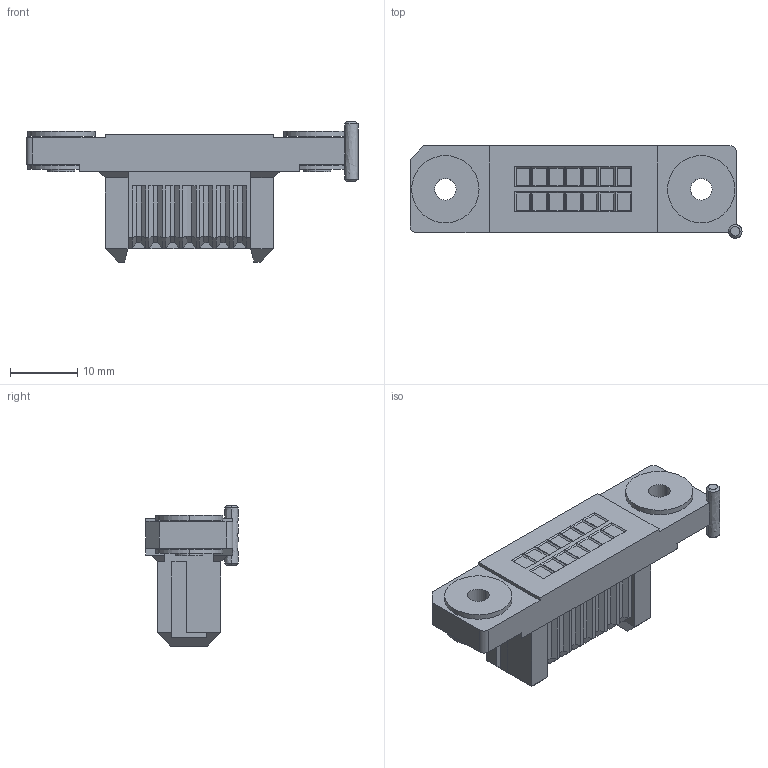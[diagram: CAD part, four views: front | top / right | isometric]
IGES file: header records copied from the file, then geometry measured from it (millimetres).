
Start section: Elysium IGES Interface
Bounding box: 49.3 x 13.7 x 20.8 mm (x, y, z)
Volume: 5425.2 mm3; surface area: 3597.1 mm2
Topology: 1 solids, 1 shells, 349 faces, 831 edges, 508 vertices
Faces by surface type: bspline 349
